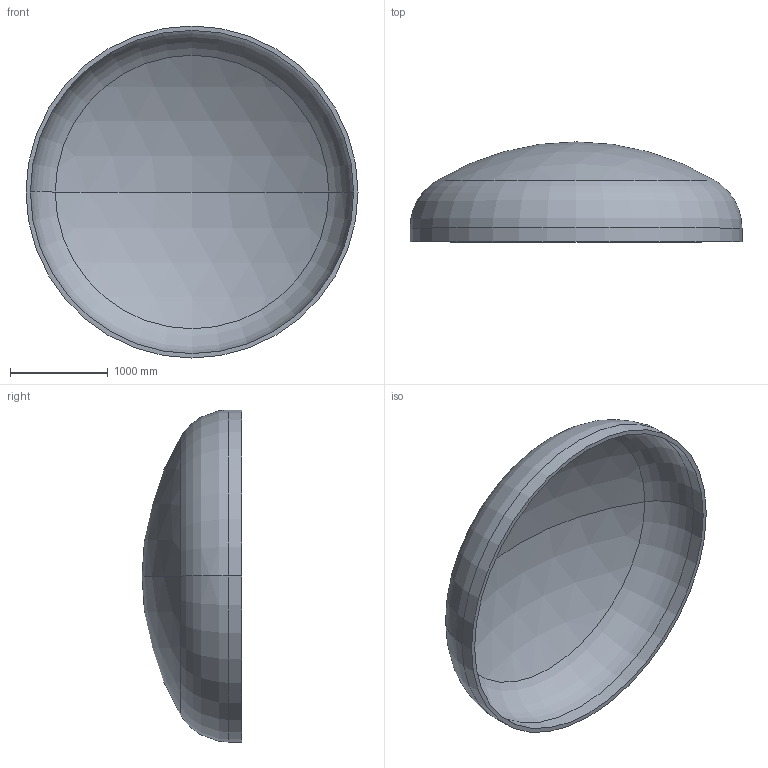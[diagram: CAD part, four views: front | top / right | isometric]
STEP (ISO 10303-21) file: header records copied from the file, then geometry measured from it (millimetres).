
FILE_DESCRIPTION (( 'STEP AP203' ), '1' );
FILE_NAME ('DIN 28013 Korbbogenform_-_Boden DIN 28013 - 3400 x 140 - I - s=45.step', '2016-07-01T19:32:24', ( '' ), ( '' ), 'SwSTEP 2.0', 'SolidWorks 2013', '' );
FILE_SCHEMA (( 'CONFIG_CONTROL_DESIGN' ));
Length unit declared in the file: millimetre
Products named in the file (1): DIN 28013 Korbbogenform_-_Boden DIN 28013 - 3400 x 140 - I - s=45
Bounding box: 3400 x 1023.21 x 3400 mm (x, y, z)
Volume: 622738432.5 mm3; surface area: 28155797.1 mm2
Topology: 1 solids, 1 shells, 13 faces, 24 edges, 14 vertices
Faces by surface type: torus 4, cylinder 4, sphere 4, plane 1
Entity records: 407 total; most frequent: DIRECTION 72, CARTESIAN_POINT 52, ORIENTED_EDGE 48, AXIS2_PLACEMENT_3D 34, EDGE_CURVE 24, CIRCLE 20, EDGE_LOOP 14, VERTEX_POINT 14
